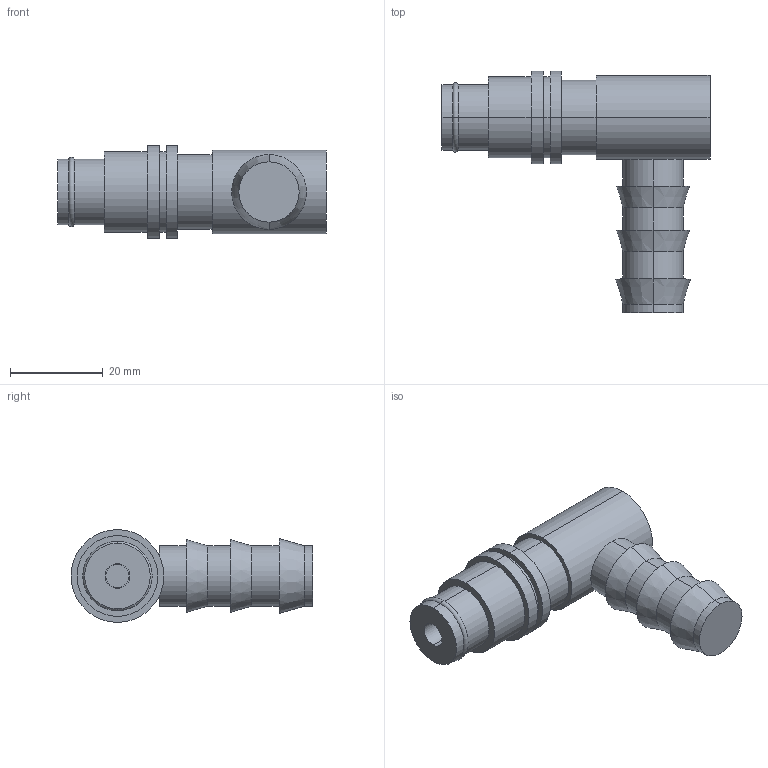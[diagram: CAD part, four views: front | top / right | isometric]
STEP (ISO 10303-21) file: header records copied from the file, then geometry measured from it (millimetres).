
FILE_DESCRIPTION (( 'STEP AP214' ), '1' );
FILE_NAME ('BR85-08.FG13-90.STEP', '2020-06-23T08:25:46', ( '' ), ( '' ), 'SwSTEP 2.0', 'SolidWorks 2018', '' );
FILE_SCHEMA (( 'AUTOMOTIVE_DESIGN' ));
Length unit declared in the file: millimetre
Products named in the file (1): BR85-08.FG13-90
Bounding box: 57.79 x 52.15 x 20 mm (x, y, z)
Volume: 17299 mm3; surface area: 6771.7 mm2
Topology: 2 solids, 2 shells, 51 faces, 98 edges, 62 vertices
Faces by surface type: cylinder 28, plane 15, cone 6, torus 2
Entity records: 1359 total; most frequent: DIRECTION 266, CARTESIAN_POINT 212, ORIENTED_EDGE 196, AXIS2_PLACEMENT_3D 116, EDGE_CURVE 98, CIRCLE 64, EDGE_LOOP 62, VERTEX_POINT 62
